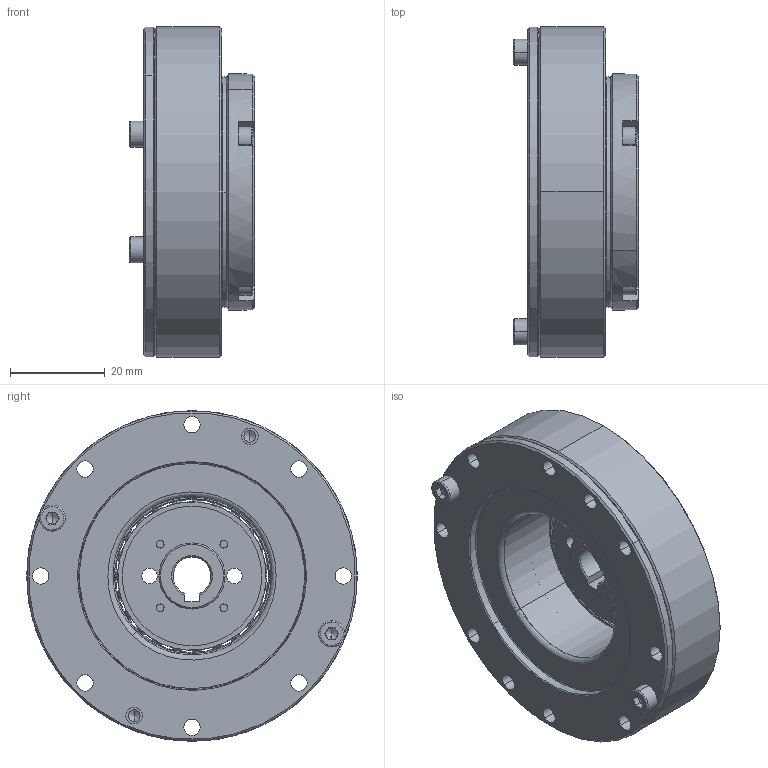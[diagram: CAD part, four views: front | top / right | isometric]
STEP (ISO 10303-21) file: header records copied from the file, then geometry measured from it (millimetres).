
FILE_DESCRIPTION (( 'STEP AP203' ), '1' );
FILE_NAME ('LHSG-14-XXX-C-I-S0.step', '2025-01-07T06:46:43', ( '' ), ( '' ), 'SwSTEP 2.0', 'SolidWorks 2023', '' );
FILE_SCHEMA (( 'CONFIG_CONTROL_DESIGN' ));
Length unit declared in the file: metre
Products named in the file (1): LHSG-14-XXX-C-I-S0
Bounding box: 26.5 x 70 x 70 mm (x, y, z)
Volume: 50113.7 mm3; surface area: 46738.4 mm2
Topology: 43 solids, 43 shells, 862 faces, 2129 edges, 1259 vertices
Faces by surface type: cylinder 320, plane 279, cone 153, bspline 110
Entity records: 27587 total; most frequent: CARTESIAN_POINT 7555, DIRECTION 4414, ORIENTED_EDGE 3962, EDGE_CURVE 1981, AXIS2_PLACEMENT_3D 1796, VERTEX_POINT 1259, CIRCLE 1043, EDGE_LOOP 1032
